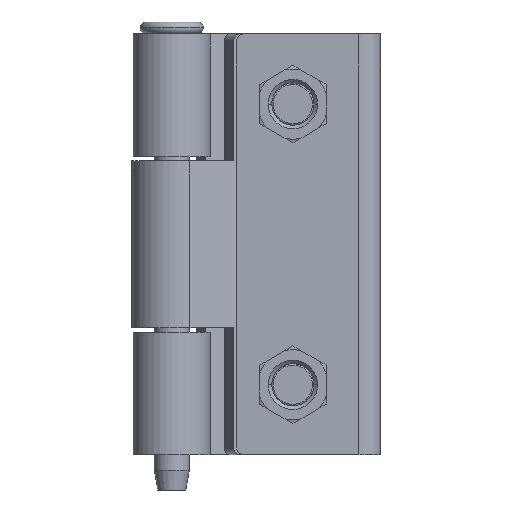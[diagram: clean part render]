
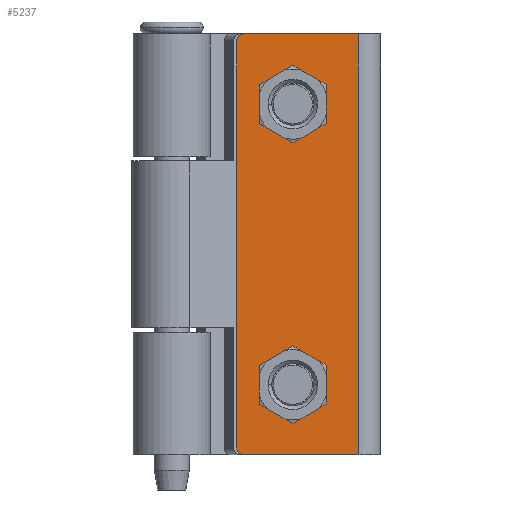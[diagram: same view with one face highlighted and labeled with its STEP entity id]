
A CAD part, front view. The second image highlights one B-rep face of the part: STEP entity #5237.
In plain terms, the highlighted planar face has unit normal (0, -1, 0).
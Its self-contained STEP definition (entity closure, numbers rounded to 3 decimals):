
#96 = ORIENTED_EDGE ( 'NONE', *, *, #1488, .T. ) ;
#364 = ORIENTED_EDGE ( 'NONE', *, *, #11401, .T. ) ;
#416 = EDGE_CURVE ( 'NONE', #12472, #9137, #2270, .T. ) ;
#431 = ORIENTED_EDGE ( 'NONE', *, *, #8561, .F. ) ;
#635 = CARTESIAN_POINT ( 'NONE',  ( 26.65, -15.8, 60. ) ) ;
#683 = DIRECTION ( 'NONE',  ( 0., -1., 0. ) ) ;
#783 = FACE_BOUND ( 'NONE', #10876, .T. ) ;
#872 = CARTESIAN_POINT ( 'NONE',  ( 9.25, -15.8, 59. ) ) ;
#912 = EDGE_CURVE ( 'NONE', #8202, #7776, #9323, .T. ) ;
#966 = VECTOR ( 'NONE', #1079, 1000. ) ;
#1079 = DIRECTION ( 'NONE',  ( -1., 0., 0. ) ) ;
#1103 = VERTEX_POINT ( 'NONE', #9787 ) ;
#1444 = DIRECTION ( 'NONE',  ( 0., 0., -1. ) ) ;
#1466 = DIRECTION ( 'NONE',  ( 1., 0., 0. ) ) ;
#1488 = EDGE_CURVE ( 'NONE', #7776, #6846, #7255, .T. ) ;
#1551 = ORIENTED_EDGE ( 'NONE', *, *, #11472, .T. ) ;
#1686 = FACE_OUTER_BOUND ( 'NONE', #7038, .T. ) ;
#1857 = DIRECTION ( 'NONE',  ( 0., -1., 0. ) ) ;
#1908 = CARTESIAN_POINT ( 'NONE',  ( 14.25, -15.8, 10. ) ) ;
#2028 = ORIENTED_EDGE ( 'NONE', *, *, #6063, .F. ) ;
#2207 = CIRCLE ( 'NONE', #6363, 1. ) ;
#2255 = CARTESIAN_POINT ( 'NONE',  ( 14.25, -15.8, 50. ) ) ;
#2270 = CIRCLE ( 'NONE', #9543, 3. ) ;
#2424 = VECTOR ( 'NONE', #9095, 1000. ) ;
#2561 = EDGE_LOOP ( 'NONE', ( #431, #2028 ) ) ;
#2800 = FACE_BOUND ( 'NONE', #2561, .T. ) ;
#2929 = DIRECTION ( 'NONE',  ( 0., -1., 0. ) ) ;
#3020 = VECTOR ( 'NONE', #10463, 1000. ) ;
#3566 = CIRCLE ( 'NONE', #5659, 3. ) ;
#3631 = AXIS2_PLACEMENT_3D ( 'NONE', #5667, #2929, #11839 ) ;
#3634 = CARTESIAN_POINT ( 'NONE',  ( 20.25, -15.8, 10. ) ) ;
#3638 = VERTEX_POINT ( 'NONE', #11122 ) ;
#3892 = CARTESIAN_POINT ( 'NONE',  ( 17.25, -15.8, 10. ) ) ;
#3941 = DIRECTION ( 'NONE',  ( 1., 0., 0. ) ) ;
#4127 = EDGE_CURVE ( 'NONE', #9137, #12472, #3566, .T. ) ;
#4621 = LINE ( 'NONE', #6312, #3020 ) ;
#5079 = EDGE_CURVE ( 'NONE', #1103, #6846, #4621, .T. ) ;
#5237 = ADVANCED_FACE ( 'NONE', ( #783, #2800, #1686 ), #7887, .T. ) ;
#5362 = CARTESIAN_POINT ( 'NONE',  ( 10.25, -15.8, 0. ) ) ;
#5424 = CARTESIAN_POINT ( 'NONE',  ( 9.25, -15.8, 60. ) ) ;
#5596 = VERTEX_POINT ( 'NONE', #1908 ) ;
#5659 = AXIS2_PLACEMENT_3D ( 'NONE', #10445, #6423, #1466 ) ;
#5667 = CARTESIAN_POINT ( 'NONE',  ( 26.75, -15.8, 60. ) ) ;
#6063 = EDGE_CURVE ( 'NONE', #5596, #9102, #6753, .T. ) ;
#6099 = ORIENTED_EDGE ( 'NONE', *, *, #12238, .F. ) ;
#6144 = DIRECTION ( 'NONE',  ( 0., -1., 0. ) ) ;
#6312 = CARTESIAN_POINT ( 'NONE',  ( 26.75, -15.8, 0. ) ) ;
#6348 = AXIS2_PLACEMENT_3D ( 'NONE', #12052, #6144, #11077 ) ;
#6363 = AXIS2_PLACEMENT_3D ( 'NONE', #12778, #1857, #3941 ) ;
#6423 = DIRECTION ( 'NONE',  ( 0., -1., 0. ) ) ;
#6753 = CIRCLE ( 'NONE', #8824, 3. ) ;
#6846 = VERTEX_POINT ( 'NONE', #5362 ) ;
#6852 = DIRECTION ( 'NONE',  ( 0., -1., 0. ) ) ;
#7038 = EDGE_LOOP ( 'NONE', ( #1551, #364, #7667, #96, #7225, #6099 ) ) ;
#7225 = ORIENTED_EDGE ( 'NONE', *, *, #5079, .F. ) ;
#7255 = CIRCLE ( 'NONE', #6348, 1. ) ;
#7667 = ORIENTED_EDGE ( 'NONE', *, *, #912, .T. ) ;
#7776 = VERTEX_POINT ( 'NONE', #11572 ) ;
#7887 = PLANE ( 'NONE',  #3631 ) ;
#8202 = VERTEX_POINT ( 'NONE', #872 ) ;
#8330 = ORIENTED_EDGE ( 'NONE', *, *, #416, .F. ) ;
#8428 = DIRECTION ( 'NONE',  ( 1., 0., 0. ) ) ;
#8561 = EDGE_CURVE ( 'NONE', #9102, #5596, #10597, .T. ) ;
#8710 = DIRECTION ( 'NONE',  ( 0., -1., 0. ) ) ;
#8729 = CARTESIAN_POINT ( 'NONE',  ( 17.25, -15.8, 10. ) ) ;
#8824 = AXIS2_PLACEMENT_3D ( 'NONE', #3892, #8710, #12733 ) ;
#9033 = CARTESIAN_POINT ( 'NONE',  ( 20.25, -15.8, 50. ) ) ;
#9074 = LINE ( 'NONE', #10891, #966 ) ;
#9080 = VECTOR ( 'NONE', #1444, 1000. ) ;
#9095 = DIRECTION ( 'NONE',  ( 0., 0., -1. ) ) ;
#9102 = VERTEX_POINT ( 'NONE', #3634 ) ;
#9117 = ORIENTED_EDGE ( 'NONE', *, *, #4127, .F. ) ;
#9137 = VERTEX_POINT ( 'NONE', #9033 ) ;
#9323 = LINE ( 'NONE', #5424, #9080 ) ;
#9543 = AXIS2_PLACEMENT_3D ( 'NONE', #9604, #683, #8428 ) ;
#9604 = CARTESIAN_POINT ( 'NONE',  ( 17.25, -15.8, 50. ) ) ;
#9787 = CARTESIAN_POINT ( 'NONE',  ( 26.65, -15.8, 0. ) ) ;
#10134 = CARTESIAN_POINT ( 'NONE',  ( 26.65, -15.8, 60. ) ) ;
#10445 = CARTESIAN_POINT ( 'NONE',  ( 17.25, -15.8, 50. ) ) ;
#10463 = DIRECTION ( 'NONE',  ( -1., 0., 0. ) ) ;
#10597 = CIRCLE ( 'NONE', #11217, 3. ) ;
#10876 = EDGE_LOOP ( 'NONE', ( #9117, #8330 ) ) ;
#10891 = CARTESIAN_POINT ( 'NONE',  ( 26.75, -15.8, 60. ) ) ;
#10939 = VERTEX_POINT ( 'NONE', #635 ) ;
#11040 = LINE ( 'NONE', #10134, #2424 ) ;
#11077 = DIRECTION ( 'NONE',  ( 1., 0., 0. ) ) ;
#11122 = CARTESIAN_POINT ( 'NONE',  ( 10.25, -15.8, 60. ) ) ;
#11217 = AXIS2_PLACEMENT_3D ( 'NONE', #8729, #6852, #11588 ) ;
#11401 = EDGE_CURVE ( 'NONE', #3638, #8202, #2207, .T. ) ;
#11472 = EDGE_CURVE ( 'NONE', #10939, #3638, #9074, .T. ) ;
#11572 = CARTESIAN_POINT ( 'NONE',  ( 9.25, -15.8, 1. ) ) ;
#11588 = DIRECTION ( 'NONE',  ( 1., 0., 0. ) ) ;
#11839 = DIRECTION ( 'NONE',  ( 1., 0., 0. ) ) ;
#12052 = CARTESIAN_POINT ( 'NONE',  ( 10.25, -15.8, 1. ) ) ;
#12238 = EDGE_CURVE ( 'NONE', #10939, #1103, #11040, .T. ) ;
#12472 = VERTEX_POINT ( 'NONE', #2255 ) ;
#12733 = DIRECTION ( 'NONE',  ( 1., 0., 0. ) ) ;
#12778 = CARTESIAN_POINT ( 'NONE',  ( 10.25, -15.8, 59. ) ) ;
